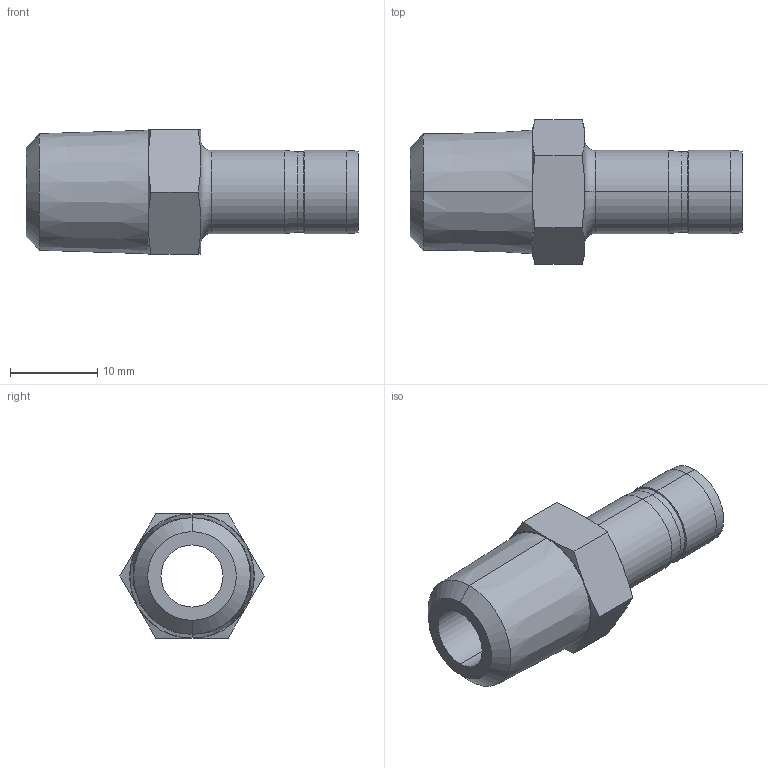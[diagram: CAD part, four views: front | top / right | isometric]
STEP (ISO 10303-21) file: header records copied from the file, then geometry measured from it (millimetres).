
FILE_DESCRIPTION (( 'STEP AP203' ), '1' );
FILE_NAME ('DHA06-04 SS.STEP', '2009-09-08T06:14:48', ( ' ' ), ( '' ), 'SwSTEP 2.0', 'SolidWorks 2008', '' );
FILE_SCHEMA (( 'CONFIG_CONTROL_DESIGN' ));
Length unit declared in the file: millimetre
Products named in the file (1): DHA06-04 SS
Bounding box: 38 x 16.5 x 14.29 mm (x, y, z)
Volume: 2855.6 mm3; surface area: 2478.6 mm2
Topology: 1 solids, 1 shells, 42 faces, 88 edges, 50 vertices
Faces by surface type: cone 22, plane 10, cylinder 8, torus 2
Entity records: 1217 total; most frequent: CARTESIAN_POINT 261, DIRECTION 190, ORIENTED_EDGE 176, EDGE_CURVE 88, AXIS2_PLACEMENT_3D 83, VERTEX_POINT 50, EDGE_LOOP 46, ADVANCED_FACE 42
